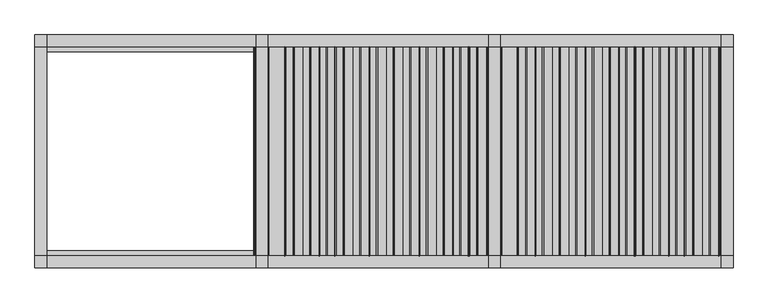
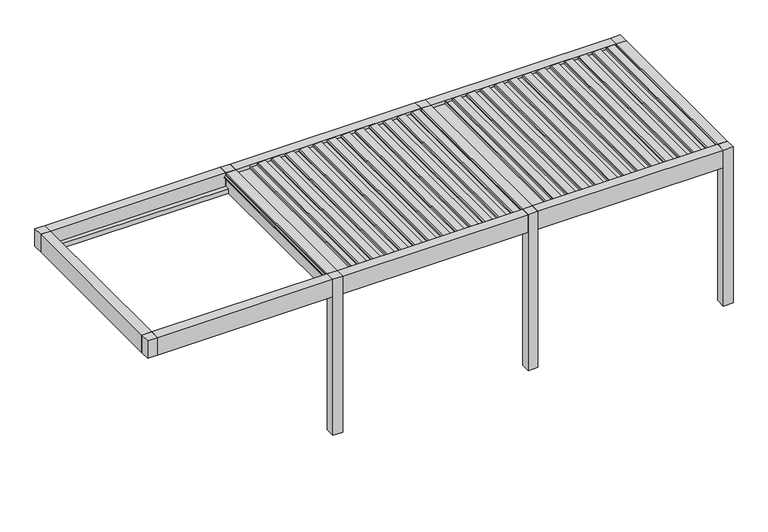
"""IFC4 building model written with IfcOpenShell, lengths in millimetres: proxy geometry, Renson_Amani_Patio_Cover : Renson_Amani_Patio_Cover."""

from ifc_helpers import new_model, si_unit, point, frame, frame_2d, origin, origin_with_axes, place, context, project, spatial, polyline, circle_curve, trimmed, segment, composite_curve, outline, extrude, source, transform, mapped, element, save


def generic_models_989edc24(model_context):
    return source(origin(), model_context, "Body", "SweptSolid", [
        extrude(outline(composite_curve([segment(polyline([(2483.35, 7073.7289238), (2511.01198, 7076.1490335), (2512.3970364, 7104.984284), (2531.8911096, 7101.5469529), (2526.6075693, 6991.549838)]), True, "CONTINUOUS"), segment(trimmed(circle_curve(frame_2d((2511.6248435, 6992.26951)), 15.0), [point((2526.6075693, 6991.549838))], [point((2514.2295662, 6977.4973937))], False, "CARTESIAN"), True, "CONTINUOUS"), segment(polyline([(2514.2295662, 6977.4973937), (2495.0, 6974.1067023), (2495.0, 6886.3709263), (2512.0788237, 6883.3594689), (2511.3450182, 6868.0824984), (2483.35, 6865.6332517), (2483.35, 7073.7289238)]), True, "CONTINUOUS")], self_intersect=False)), frame((0.0, -1350.0, 0.0), z_axis=(0.0, 1.0, 0.0), x_axis=(0.0, 0.0, 1.0)), (0.0, 0.0, 1.0), 2700.0),
        extrude(outline(composite_curve([segment(polyline([(2483.35, 6858.7132078), (2511.01198, 6861.1333174), (2512.3970364, 6889.9685679), (2531.8911096, 6886.5312368), (2526.6075693, 6776.534122)]), True, "CONTINUOUS"), segment(trimmed(circle_curve(frame_2d((2511.6248435, 6777.2537939)), 15.0), [point((2526.6075693, 6776.534122))], [point((2514.2295662, 6762.4816776))], False, "CARTESIAN"), True, "CONTINUOUS"), segment(polyline([(2514.2295662, 6762.4816776), (2495.0, 6759.0909863), (2495.0, 6671.3552102), (2512.0788237, 6668.3437528), (2511.3450182, 6653.0667824), (2483.35, 6650.6175356), (2483.35, 6858.7132078)]), True, "CONTINUOUS")], self_intersect=False)), frame((0.0, -1350.0, 0.0), z_axis=(0.0, 1.0, 0.0), x_axis=(0.0, 0.0, 1.0)), (0.0, 0.0, 1.0), 2700.0),
        extrude(outline(composite_curve([segment(polyline([(2483.35, 6643.6974917), (2511.01198, 6646.1176014), (2512.3970364, 6674.9528519), (2531.8911096, 6671.5155208), (2526.6075693, 6561.5184059)]), True, "CONTINUOUS"), segment(trimmed(circle_curve(frame_2d((2511.6248435, 6562.2380779)), 15.0), [point((2526.6075693, 6561.5184059))], [point((2514.2295662, 6547.4659616))], False, "CARTESIAN"), True, "CONTINUOUS"), segment(polyline([(2514.2295662, 6547.4659616), (2495.0, 6544.0752702), (2495.0, 6456.3394942), (2512.0788237, 6453.3280368), (2511.3450182, 6438.0510663), (2483.35, 6435.6018196), (2483.35, 6643.6974917)]), True, "CONTINUOUS")], self_intersect=False)), frame((0.0, -1350.0, 0.0), z_axis=(0.0, 1.0, 0.0), x_axis=(0.0, 0.0, 1.0)), (0.0, 0.0, 1.0), 2700.0),
        extrude(outline(composite_curve([segment(polyline([(2483.35, 6428.6817757), (2511.01198, 6431.1018854), (2512.3970364, 6459.9371358), (2531.8911096, 6456.4998047), (2526.6075693, 6346.5026899)]), True, "CONTINUOUS"), segment(trimmed(circle_curve(frame_2d((2511.6248435, 6347.2223618)), 15.0), [point((2526.6075693, 6346.5026899))], [point((2514.2295662, 6332.4502455))], False, "CARTESIAN"), True, "CONTINUOUS"), segment(polyline([(2514.2295662, 6332.4502455), (2495.0, 6329.0595542), (2495.0, 6241.3237782), (2512.0788237, 6238.3123207), (2511.3450182, 6223.0353503), (2483.35, 6220.5861035), (2483.35, 6428.6817757)]), True, "CONTINUOUS")], self_intersect=False)), frame((0.0, -1350.0, 0.0), z_axis=(0.0, 1.0, 0.0), x_axis=(0.0, 0.0, 1.0)), (0.0, 0.0, 1.0), 2700.0),
        extrude(outline(composite_curve([segment(polyline([(2483.35, 6213.6660597), (2511.01198, 6216.0861693), (2512.3970364, 6244.9214198), (2531.8911096, 6241.4840887), (2526.6075693, 6131.4869738)]), True, "CONTINUOUS"), segment(trimmed(circle_curve(frame_2d((2511.6248435, 6132.2066458)), 15.0), [point((2526.6075693, 6131.4869738))], [point((2514.2295662, 6117.4345295))], False, "CARTESIAN"), True, "CONTINUOUS"), segment(polyline([(2514.2295662, 6117.4345295), (2495.0, 6114.0438381), (2495.0, 6026.3080621), (2512.0788237, 6023.2966047), (2511.3450182, 6008.0196342), (2483.35, 6005.5703875), (2483.35, 6213.6660597)]), True, "CONTINUOUS")], self_intersect=False)), frame((0.0, -1350.0, 0.0), z_axis=(0.0, 1.0, 0.0), x_axis=(0.0, 0.0, 1.0)), (0.0, 0.0, 1.0), 2700.0),
        extrude(outline(composite_curve([segment(polyline([(2483.35, 5998.6503436), (2511.01198, 6001.0704533), (2512.3970364, 6029.9057037), (2531.8911096, 6026.4683726), (2526.6075693, 5916.4712578)]), True, "CONTINUOUS"), segment(trimmed(circle_curve(frame_2d((2511.6248435, 5917.1909297)), 15.0), [point((2526.6075693, 5916.4712578))], [point((2514.2295662, 5902.4188134))], False, "CARTESIAN"), True, "CONTINUOUS"), segment(polyline([(2514.2295662, 5902.4188134), (2495.0, 5899.0281221), (2495.0, 5811.2923461), (2512.0788237, 5808.2808886), (2511.3450182, 5793.0039182), (2483.35, 5790.5546714), (2483.35, 5998.6503436)]), True, "CONTINUOUS")], self_intersect=False)), frame((0.0, -1350.0, 0.0), z_axis=(0.0, 1.0, 0.0), x_axis=(0.0, 0.0, 1.0)), (0.0, 0.0, 1.0), 2700.0),
        extrude(outline(composite_curve([segment(polyline([(2483.35, 5783.6346276), (2511.01198, 5786.0547372), (2512.3970364, 5814.8899877), (2531.8911096, 5811.4526566), (2526.6075693, 5701.4555418)]), True, "CONTINUOUS"), segment(trimmed(circle_curve(frame_2d((2511.6248435, 5702.1752137)), 15.0), [point((2526.6075693, 5701.4555418))], [point((2514.2295662, 5687.4030974))], False, "CARTESIAN"), True, "CONTINUOUS"), segment(polyline([(2514.2295662, 5687.4030974), (2495.0, 5684.012406), (2495.0, 5596.27663), (2512.0788237, 5593.2651726), (2511.3450182, 5577.9882021), (2483.35, 5575.5389554), (2483.35, 5783.6346276)]), True, "CONTINUOUS")], self_intersect=False)), frame((0.0, -1350.0, 0.0), z_axis=(0.0, 1.0, 0.0), x_axis=(0.0, 0.0, 1.0)), (0.0, 0.0, 1.0), 2700.0),
        extrude(outline(composite_curve([segment(polyline([(2483.35, 5568.6189115), (2511.01198, 5571.0390212), (2512.3970364, 5599.8742716), (2531.8911096, 5596.4369406), (2526.6075693, 5486.4398257)]), True, "CONTINUOUS"), segment(trimmed(circle_curve(frame_2d((2511.6248435, 5487.1594976)), 15.0), [point((2526.6075693, 5486.4398257))], [point((2514.2295662, 5472.3873813))], False, "CARTESIAN"), True, "CONTINUOUS"), segment(polyline([(2514.2295662, 5472.3873813), (2495.0, 5468.99669), (2495.0, 5381.260914), (2512.0788237, 5378.2494566), (2511.3450182, 5362.9724861), (2483.35, 5360.5232394), (2483.35, 5568.6189115)]), True, "CONTINUOUS")], self_intersect=False)), frame((0.0, -1350.0, 0.0), z_axis=(0.0, 1.0, 0.0), x_axis=(0.0, 0.0, 1.0)), (0.0, 0.0, 1.0), 2700.0),
        extrude(outline(composite_curve([segment(polyline([(2483.35, 5353.6031955), (2511.01198, 5356.0233051), (2512.3970364, 5384.8585556), (2531.8911096, 5381.4212245), (2526.6075693, 5271.4241097)]), True, "CONTINUOUS"), segment(trimmed(circle_curve(frame_2d((2511.6248435, 5272.1437816)), 15.0), [point((2526.6075693, 5271.4241097))], [point((2514.2295662, 5257.3716653))], False, "CARTESIAN"), True, "CONTINUOUS"), segment(polyline([(2514.2295662, 5257.3716653), (2495.0, 5253.980974), (2495.0, 5166.2451979), (2512.0788237, 5163.2337405), (2511.3450182, 5147.95677), (2483.35, 5145.5075233), (2483.35, 5353.6031955)]), True, "CONTINUOUS")], self_intersect=False)), frame((0.0, -1350.0, 0.0), z_axis=(0.0, 1.0, 0.0), x_axis=(0.0, 0.0, 1.0)), (0.0, 0.0, 1.0), 2700.0),
        extrude(outline(composite_curve([segment(polyline([(2483.35, 5138.5874794), (2511.01198, 5141.0075891), (2512.3970364, 5169.8428395), (2531.8911096, 5166.4055085), (2526.6075693, 5056.4083936)]), True, "CONTINUOUS"), segment(trimmed(circle_curve(frame_2d((2511.6248435, 5057.1280655)), 15.0), [point((2526.6075693, 5056.4083936))], [point((2514.2295662, 5042.3559492))], False, "CARTESIAN"), True, "CONTINUOUS"), segment(polyline([(2514.2295662, 5042.3559492), (2495.0, 5038.9652579), (2495.0, 4951.2294819), (2512.0788237, 4948.2180245), (2511.3450182, 4932.941054), (2483.35, 4930.4918073), (2483.35, 5138.5874794)]), True, "CONTINUOUS")], self_intersect=False)), frame((0.0, -1350.0, 0.0), z_axis=(0.0, 1.0, 0.0), x_axis=(0.0, 0.0, 1.0)), (0.0, 0.0, 1.0), 2700.0),
        extrude(outline(composite_curve([segment(polyline([(2483.35, 7288.7446399), (2511.01198, 7291.1647495), (2512.3970364, 7320.0), (2531.8911096, 7316.5626689), (2526.6075693, 7206.5655541)]), True, "CONTINUOUS"), segment(trimmed(circle_curve(frame_2d((2511.6248435, 7207.285226)), 15.0), [point((2526.6075693, 7206.5655541))], [point((2514.2295662, 7192.5131097))], False, "CARTESIAN"), True, "CONTINUOUS"), segment(polyline([(2514.2295662, 7192.5131097), (2495.0, 7189.1224184), (2495.0, 7101.3866423), (2512.0788237, 7098.3751849), (2511.3450182, 7083.0982144), (2483.35, 7080.6489677), (2483.35, 7288.7446399)]), True, "CONTINUOUS")], self_intersect=False)), frame((0.0, -1350.0, 0.0), z_axis=(0.0, 1.0, 0.0), x_axis=(0.0, 0.0, 1.0)), (0.0, 0.0, 1.0), 2700.0),
        extrude(outline(composite_curve([segment(polyline([(2483.35, 4923.5717634), (2511.01198, 4925.991873), (2512.3970364, 4954.8271235), (2531.8911096, 4951.3897924), (2526.6075693, 4841.3926776)]), True, "CONTINUOUS"), segment(trimmed(circle_curve(frame_2d((2511.6248435, 4842.1123495)), 15.0), [point((2526.6075693, 4841.3926776))], [point((2514.2295662, 4827.3402332))], False, "CARTESIAN"), True, "CONTINUOUS"), segment(polyline([(2514.2295662, 4827.3402332), (2495.0, 4823.9495419), (2495.0, 4736.2137658), (2512.0788237, 4733.2023084), (2511.3450182, 4717.9253379), (2483.35, 4715.4760912), (2483.35, 4923.5717634)]), True, "CONTINUOUS")], self_intersect=False)), frame((0.0, -1350.0, 0.0), z_axis=(0.0, 1.0, 0.0), x_axis=(0.0, 0.0, 1.0)), (0.0, 0.0, 1.0), 2700.0),
        extrude(outline(composite_curve([segment(polyline([(2483.35, 4073.7289238), (2511.01198, 4076.1490335), (2512.3970364, 4104.984284), (2531.8911096, 4101.5469529), (2526.6075693, 3991.549838)]), True, "CONTINUOUS"), segment(trimmed(circle_curve(frame_2d((2511.6248435, 3992.26951)), 15.0), [point((2526.6075693, 3991.549838))], [point((2514.2295662, 3977.4973937))], False, "CARTESIAN"), True, "CONTINUOUS"), segment(polyline([(2514.2295662, 3977.4973937), (2495.0, 3974.1067023), (2495.0, 3886.3709263), (2512.0788237, 3883.3594689), (2511.3450182, 3868.0824984), (2483.35, 3865.6332517), (2483.35, 4073.7289238)]), True, "CONTINUOUS")], self_intersect=False)), frame((0.0, -1350.0, 0.0), z_axis=(0.0, 1.0, 0.0), x_axis=(0.0, 0.0, 1.0)), (0.0, 0.0, 1.0), 2700.0),
        extrude(outline(composite_curve([segment(polyline([(2483.35, 3858.7132078), (2511.01198, 3861.1333174), (2512.3970364, 3889.9685679), (2531.8911096, 3886.5312368), (2526.6075693, 3776.534122)]), True, "CONTINUOUS"), segment(trimmed(circle_curve(frame_2d((2511.6248435, 3777.2537939)), 15.0), [point((2526.6075693, 3776.534122))], [point((2514.2295662, 3762.4816776))], False, "CARTESIAN"), True, "CONTINUOUS"), segment(polyline([(2514.2295662, 3762.4816776), (2495.0, 3759.0909863), (2495.0, 3671.3552102), (2512.0788237, 3668.3437528), (2511.3450182, 3653.0667824), (2483.35, 3650.6175356), (2483.35, 3858.7132078)]), True, "CONTINUOUS")], self_intersect=False)), frame((0.0, -1350.0, 0.0), z_axis=(0.0, 1.0, 0.0), x_axis=(0.0, 0.0, 1.0)), (0.0, 0.0, 1.0), 2700.0),
        extrude(outline(composite_curve([segment(polyline([(2483.35, 3643.6974917), (2511.01198, 3646.1176014), (2512.3970364, 3674.9528519), (2531.8911096, 3671.5155208), (2526.6075693, 3561.5184059)]), True, "CONTINUOUS"), segment(trimmed(circle_curve(frame_2d((2511.6248435, 3562.2380779)), 15.0), [point((2526.6075693, 3561.5184059))], [point((2514.2295662, 3547.4659616))], False, "CARTESIAN"), True, "CONTINUOUS"), segment(polyline([(2514.2295662, 3547.4659616), (2495.0, 3544.0752702), (2495.0, 3456.3394942), (2512.0788237, 3453.3280368), (2511.3450182, 3438.0510663), (2483.35, 3435.6018196), (2483.35, 3643.6974917)]), True, "CONTINUOUS")], self_intersect=False)), frame((0.0, -1350.0, 0.0), z_axis=(0.0, 1.0, 0.0), x_axis=(0.0, 0.0, 1.0)), (0.0, 0.0, 1.0), 2700.0),
        extrude(outline(composite_curve([segment(polyline([(2483.35, 3428.6817757), (2511.01198, 3431.1018854), (2512.3970364, 3459.9371358), (2531.8911096, 3456.4998047), (2526.6075693, 3346.5026899)]), True, "CONTINUOUS"), segment(trimmed(circle_curve(frame_2d((2511.6248435, 3347.2223618)), 15.0), [point((2526.6075693, 3346.5026899))], [point((2514.2295662, 3332.4502455))], False, "CARTESIAN"), True, "CONTINUOUS"), segment(polyline([(2514.2295662, 3332.4502455), (2495.0, 3329.0595542), (2495.0, 3241.3237782), (2512.0788237, 3238.3123207), (2511.3450182, 3223.0353503), (2483.35, 3220.5861035), (2483.35, 3428.6817757)]), True, "CONTINUOUS")], self_intersect=False)), frame((0.0, -1350.0, 0.0), z_axis=(0.0, 1.0, 0.0), x_axis=(0.0, 0.0, 1.0)), (0.0, 0.0, 1.0), 2700.0),
        extrude(outline(composite_curve([segment(polyline([(2483.35, 3213.6660597), (2511.01198, 3216.0861693), (2512.3970364, 3244.9214198), (2531.8911096, 3241.4840887), (2526.6075693, 3131.4869738)]), True, "CONTINUOUS"), segment(trimmed(circle_curve(frame_2d((2511.6248435, 3132.2066458)), 15.0), [point((2526.6075693, 3131.4869738))], [point((2514.2295662, 3117.4345295))], False, "CARTESIAN"), True, "CONTINUOUS"), segment(polyline([(2514.2295662, 3117.4345295), (2495.0, 3114.0438381), (2495.0, 3026.3080621), (2512.0788237, 3023.2966047), (2511.3450182, 3008.0196342), (2483.35, 3005.5703875), (2483.35, 3213.6660597)]), True, "CONTINUOUS")], self_intersect=False)), frame((0.0, -1350.0, 0.0), z_axis=(0.0, 1.0, 0.0), x_axis=(0.0, 0.0, 1.0)), (0.0, 0.0, 1.0), 2700.0),
        extrude(outline(composite_curve([segment(polyline([(2483.35, 2998.6503436), (2511.01198, 3001.0704533), (2512.3970364, 3029.9057037), (2531.8911096, 3026.4683726), (2526.6075693, 2916.4712578)]), True, "CONTINUOUS"), segment(trimmed(circle_curve(frame_2d((2511.6248435, 2917.1909297)), 15.0), [point((2526.6075693, 2916.4712578))], [point((2514.2295662, 2902.4188134))], False, "CARTESIAN"), True, "CONTINUOUS"), segment(polyline([(2514.2295662, 2902.4188134), (2495.0, 2899.0281221), (2495.0, 2811.2923461), (2512.0788237, 2808.2808886), (2511.3450182, 2793.0039182), (2483.35, 2790.5546714), (2483.35, 2998.6503436)]), True, "CONTINUOUS")], self_intersect=False)), frame((0.0, -1350.0, 0.0), z_axis=(0.0, 1.0, 0.0), x_axis=(0.0, 0.0, 1.0)), (0.0, 0.0, 1.0), 2700.0),
        extrude(outline(composite_curve([segment(polyline([(2483.35, 2783.6346276), (2511.01198, 2786.0547372), (2512.3970364, 2814.8899877), (2531.8911096, 2811.4526566), (2526.6075693, 2701.4555418)]), True, "CONTINUOUS"), segment(trimmed(circle_curve(frame_2d((2511.6248435, 2702.1752137)), 15.0), [point((2526.6075693, 2701.4555418))], [point((2514.2295662, 2687.4030974))], False, "CARTESIAN"), True, "CONTINUOUS"), segment(polyline([(2514.2295662, 2687.4030974), (2495.0, 2684.012406), (2495.0, 2596.27663), (2512.0788237, 2593.2651726), (2511.3450182, 2577.9882021), (2483.35, 2575.5389554), (2483.35, 2783.6346276)]), True, "CONTINUOUS")], self_intersect=False)), frame((0.0, -1350.0, 0.0), z_axis=(0.0, 1.0, 0.0), x_axis=(0.0, 0.0, 1.0)), (0.0, 0.0, 1.0), 2700.0),
        extrude(outline(composite_curve([segment(polyline([(2483.35, 2568.6189115), (2511.01198, 2571.0390212), (2512.3970364, 2599.8742716), (2531.8911096, 2596.4369406), (2526.6075693, 2486.4398257)]), True, "CONTINUOUS"), segment(trimmed(circle_curve(frame_2d((2511.6248435, 2487.1594976)), 15.0), [point((2526.6075693, 2486.4398257))], [point((2514.2295662, 2472.3873813))], False, "CARTESIAN"), True, "CONTINUOUS"), segment(polyline([(2514.2295662, 2472.3873813), (2495.0, 2468.99669), (2495.0, 2381.260914), (2512.0788237, 2378.2494566), (2511.3450182, 2362.9724861), (2483.35, 2360.5232394), (2483.35, 2568.6189115)]), True, "CONTINUOUS")], self_intersect=False)), frame((0.0, -1350.0, 0.0), z_axis=(0.0, 1.0, 0.0), x_axis=(0.0, 0.0, 1.0)), (0.0, 0.0, 1.0), 2700.0),
        extrude(outline(composite_curve([segment(polyline([(2483.35, 2353.6031955), (2511.01198, 2356.0233051), (2512.3970364, 2384.8585556), (2531.8911096, 2381.4212245), (2526.6075693, 2271.4241097)]), True, "CONTINUOUS"), segment(trimmed(circle_curve(frame_2d((2511.6248435, 2272.1437816)), 15.0), [point((2526.6075693, 2271.4241097))], [point((2514.2295662, 2257.3716653))], False, "CARTESIAN"), True, "CONTINUOUS"), segment(polyline([(2514.2295662, 2257.3716653), (2495.0, 2253.980974), (2495.0, 2166.2451979), (2512.0788237, 2163.2337405), (2511.3450182, 2147.95677), (2483.35, 2145.5075233), (2483.35, 2353.6031955)]), True, "CONTINUOUS")], self_intersect=False)), frame((0.0, -1350.0, 0.0), z_axis=(0.0, 1.0, 0.0), x_axis=(0.0, 0.0, 1.0)), (0.0, 0.0, 1.0), 2700.0),
        extrude(outline(composite_curve([segment(polyline([(2483.35, 2138.5874794), (2511.01198, 2141.0075891), (2512.3970364, 2169.8428395), (2531.8911096, 2166.4055085), (2526.6075693, 2056.4083936)]), True, "CONTINUOUS"), segment(trimmed(circle_curve(frame_2d((2511.6248435, 2057.1280655)), 15.0), [point((2526.6075693, 2056.4083936))], [point((2514.2295662, 2042.3559492))], False, "CARTESIAN"), True, "CONTINUOUS"), segment(polyline([(2514.2295662, 2042.3559492), (2495.0, 2038.9652579), (2495.0, 1951.2294819), (2512.0788237, 1948.2180245), (2511.3450182, 1932.941054), (2483.35, 1930.4918073), (2483.35, 2138.5874794)]), True, "CONTINUOUS")], self_intersect=False)), frame((0.0, -1350.0, 0.0), z_axis=(0.0, 1.0, 0.0), x_axis=(0.0, 0.0, 1.0)), (0.0, 0.0, 1.0), 2700.0),
        extrude(outline(composite_curve([segment(polyline([(2483.35, 4288.7446399), (2511.01198, 4291.1647495), (2512.3970364, 4320.0), (2531.8911096, 4316.5626689), (2526.6075693, 4206.5655541)]), True, "CONTINUOUS"), segment(trimmed(circle_curve(frame_2d((2511.6248435, 4207.285226)), 15.0), [point((2526.6075693, 4206.5655541))], [point((2514.2295662, 4192.5131097))], False, "CARTESIAN"), True, "CONTINUOUS"), segment(polyline([(2514.2295662, 4192.5131097), (2495.0, 4189.1224184), (2495.0, 4101.3866423), (2512.0788237, 4098.3751849), (2511.3450182, 4083.0982144), (2483.35, 4080.6489677), (2483.35, 4288.7446399)]), True, "CONTINUOUS")], self_intersect=False)), frame((0.0, -1350.0, 0.0), z_axis=(0.0, 1.0, 0.0), x_axis=(0.0, 0.0, 1.0)), (0.0, 0.0, 1.0), 2700.0),
        extrude(outline(composite_curve([segment(polyline([(2483.35, 1923.5717634), (2511.01198, 1925.991873), (2512.3970364, 1954.8271235), (2531.8911096, 1951.3897924), (2526.6075693, 1841.3926776)]), True, "CONTINUOUS"), segment(trimmed(circle_curve(frame_2d((2511.6248435, 1842.1123495)), 15.0), [point((2526.6075693, 1841.3926776))], [point((2514.2295662, 1827.3402332))], False, "CARTESIAN"), True, "CONTINUOUS"), segment(polyline([(2514.2295662, 1827.3402332), (2495.0, 1823.9495419), (2495.0, 1736.2137658), (2512.0788237, 1733.2023084), (2511.3450182, 1717.9253379), (2483.35, 1715.4760912), (2483.35, 1923.5717634)]), True, "CONTINUOUS")], self_intersect=False)), frame((0.0, -1350.0, 0.0), z_axis=(0.0, 1.0, 0.0), x_axis=(0.0, 0.0, 1.0)), (0.0, 0.0, 1.0), 2700.0),
        extrude(outline(polyline([(7500.0, -1350.0), (7500.0, -1500.0), (7350.0, -1500.0), (7350.0, -1350.0), (7500.0, -1350.0)])), origin_with_axes(), (0.0, 0.0, 1.0), 2535.0),
        extrude(outline(polyline([(7500.0, 1500.0), (7500.0, 1350.0), (7350.0, 1350.0), (7350.0, 1500.0), (7500.0, 1500.0)])), frame((0.0, 0.0, 2250.0), z_axis=(0.0, 0.0, 1.0), x_axis=(1.0, 0.0, 0.0)), (0.0, 0.0, 1.0), 285.0),
        extrude(outline(polyline([(4500.0, 1350.0), (4350.0, 1350.0), (4350.0, 1500.0), (4500.0, 1500.0), (4500.0, 1350.0)])), frame((0.0, 0.0, 2250.0), z_axis=(0.0, 0.0, 1.0), x_axis=(1.0, 0.0, 0.0)), (0.0, 0.0, 1.0), 285.0),
        extrude(outline(polyline([(1500.0, 1500.0), (1500.0, 1350.0), (1350.0, 1350.0), (1350.0, 1500.0), (1500.0, 1500.0)])), frame((0.0, 0.0, 2250.0), z_axis=(0.0, 0.0, 1.0), x_axis=(1.0, 0.0, 0.0)), (0.0, 0.0, 1.0), 285.0),
        extrude(outline(polyline([(-1350.0, 1500.0), (-1350.0, 1350.0), (-1500.0, 1350.0), (-1500.0, 1500.0), (-1350.0, 1500.0)])), frame((0.0, 0.0, 2250.0), z_axis=(0.0, 0.0, 1.0), x_axis=(1.0, 0.0, 0.0)), (0.0, 0.0, 1.0), 285.0),
        extrude(outline(polyline([(-1350.0, -1500.0), (-1500.0, -1500.0), (-1500.0, -1350.0), (-1350.0, -1350.0), (-1350.0, -1500.0)])), frame((0.0, 0.0, 2250.0), z_axis=(0.0, 0.0, 1.0), x_axis=(1.0, 0.0, 0.0)), (0.0, 0.0, 1.0), 285.0),
        extrude(outline(polyline([(4500.0, -1350.0), (4500.0, -1500.0), (4350.0, -1500.0), (4350.0, -1350.0), (4500.0, -1350.0)])), origin_with_axes(), (0.0, 0.0, 1.0), 2535.0),
        extrude(outline(polyline([(1500.0, -1350.0), (1500.0, -1500.0), (1350.0, -1500.0), (1350.0, -1350.0), (1500.0, -1350.0)])), origin_with_axes(), (0.0, 0.0, 1.0), 2535.0),
        extrude(outline(polyline([(2466.6559373, 4500.0), (2466.6559373, 4710.0), (2480.6555802, 4713.7512887), (2480.6555802, 4520.4059055), (2496.400763, 4505.0), (2504.2449277, 4505.0), (2504.6823598, 4500.0), (2466.6559373, 4500.0)])), frame((0.0, -1350.0, 0.0), z_axis=(0.0, 1.0, 0.0), x_axis=(0.0, 0.0, 1.0)), (0.0, 0.0, 1.0), 2700.0),
        extrude(outline(polyline([(-1350.0, 2535.0), (-1350.0, 2322.0), (-1280.0000001, 2322.0), (-1280.0000001, 2250.0), (-1500.0, 2250.0), (-1500.0, 2535.0), (-1350.0, 2535.0)])), frame((4500.0, 0.0, 0.0), z_axis=(1.0, 0.0, 0.0), x_axis=(0.0, 1.0, 0.0)), (0.0, 0.0, 1.0), 2850.0),
        extrude(outline(polyline([(1500.0, 2250.0), (1280.0000001, 2250.0), (1280.0000001, 2322.0), (1350.0, 2322.0), (1350.0, 2535.0), (1500.0, 2535.0), (1500.0, 2250.0)])), frame((4500.0, 0.0, 0.0), z_axis=(1.0, 0.0, 0.0), x_axis=(0.0, 1.0, 0.0)), (0.0, 0.0, 1.0), 2850.0),
        extrude(outline(polyline([(2535.0, 7500.0), (2535.0, 7350.0), (2504.6823598, 7350.0), (2504.2449277, 7345.0), (2496.400763, 7345.0), (2480.6555802, 7329.2544156), (2480.6555802, 7319.9090324), (2466.6559373, 7323.6603211), (2466.6559373, 7350.0), (2250.0, 7350.0), (2250.0, 7500.0), (2535.0, 7500.0)])), frame((0.0, -1350.0, 0.0), z_axis=(0.0, 1.0, 0.0), x_axis=(0.0, 0.0, 1.0)), (0.0, 0.0, 1.0), 2700.0),
        extrude(outline(polyline([(2466.6559373, 1500.0), (2466.6559373, 1710.0), (2480.6555802, 1713.7512887), (2480.6555802, 1520.4059055), (2496.400763, 1505.0), (2504.2449277, 1505.0), (2504.6823598, 1500.0), (2466.6559373, 1500.0)])), frame((0.0, -1350.0, 0.0), z_axis=(0.0, 1.0, 0.0), x_axis=(0.0, 0.0, 1.0)), (0.0, 0.0, 1.0), 2700.0),
        extrude(outline(polyline([(-1350.0, 2535.0), (-1350.0, 2322.0), (-1280.0000001, 2322.0), (-1280.0000001, 2250.0), (-1500.0, 2250.0), (-1500.0, 2535.0), (-1350.0, 2535.0)])), frame((1500.0, 0.0, 0.0), z_axis=(1.0, 0.0, 0.0), x_axis=(0.0, 1.0, 0.0)), (0.0, 0.0, 1.0), 2850.0),
        extrude(outline(polyline([(1500.0, 2250.0), (1280.0000001, 2250.0), (1280.0000001, 2322.0), (1350.0, 2322.0), (1350.0, 2535.0), (1500.0, 2535.0), (1500.0, 2250.0)])), frame((1500.0, 0.0, 0.0), z_axis=(1.0, 0.0, 0.0), x_axis=(0.0, 1.0, 0.0)), (0.0, 0.0, 1.0), 2850.0),
        extrude(outline(polyline([(2535.0, 4500.0), (2535.0, 4350.0), (2504.6823598, 4350.0), (2504.2449277, 4345.0), (2496.400763, 4345.0), (2480.6555802, 4329.2544156), (2480.6555802, 4319.9090324), (2466.6559373, 4323.6603211), (2466.6559373, 4350.0), (2250.0, 4350.0), (2250.0, 4500.0), (2535.0, 4500.0)])), frame((0.0, -1350.0, 0.0), z_axis=(0.0, 1.0, 0.0), x_axis=(0.0, 0.0, 1.0)), (0.0, 0.0, 1.0), 2700.0),
        extrude(outline(polyline([(-1350.0, -1350.0), (-1500.0, -1350.0), (-1500.0, 1350.0), (-1350.0, 1350.0), (-1350.0, -1350.0)])), frame((0.0, 0.0, 2250.0), z_axis=(0.0, 0.0, 1.0), x_axis=(1.0, 0.0, 0.0)), (0.0, 0.0, 1.0), 285.0),
        extrude(outline(polyline([(2535.0, 1500.0), (2535.0, 1350.0), (2504.6904658, 1350.0), (2504.2449277, 1345.0), (2496.400763, 1345.0), (2480.6555802, 1329.2544156), (2480.6555802, 1319.9090324), (2466.6559373, 1323.6603211), (2466.6559373, 1350.0), (2250.0, 1350.0), (2250.0, 1500.0), (2535.0, 1500.0)])), frame((0.0, -1350.0, 0.0), z_axis=(0.0, 1.0, 0.0), x_axis=(0.0, 0.0, 1.0)), (0.0, 0.0, 1.0), 2700.0),
        extrude(outline(polyline([(-1350.0, 2535.0), (-1350.0, 2322.0), (-1280.0000001, 2322.0), (-1280.0000001, 2250.0), (-1500.0, 2250.0), (-1500.0, 2535.0), (-1350.0, 2535.0)])), frame((-1350.0, 0.0, 0.0), z_axis=(1.0, 0.0, 0.0), x_axis=(0.0, 1.0, 0.0)), (0.0, 0.0, 1.0), 2700.0),
        extrude(outline(polyline([(1500.0, 2250.0), (1280.0000001, 2250.0), (1280.0000001, 2322.0), (1350.0, 2322.0), (1350.0, 2535.0), (1500.0, 2535.0), (1500.0, 2250.0)])), frame((-1350.0, 0.0, 0.0), z_axis=(1.0, 0.0, 0.0), x_axis=(0.0, 1.0, 0.0)), (0.0, 0.0, 1.0), 2700.0),
    ])


if __name__ == "__main__":
    model = new_model("IFC4")
    model_context = context("Model", 3, world=origin())
    ifc_project = project(units=[si_unit("LENGTHUNIT", "METRE", prefix="MILLI")], contexts=[model_context])
    site = spatial("IfcSite", under=ifc_project)
    building = spatial("IfcBuilding", under=site)
    placement = place(None, origin())
    generic_models_shape = generic_models_989edc24(model_context)
    element("IfcBuildingElementProxy", 1, Name="Renson_Amani_Patio_Cover : Renson_Amani_Patio_Cover", ObjectType="Renson_Amani_Patio_Cover : Renson_Amani_Patio_Cover", at=placement, inside=building, context=model_context, shape_type="MappedRepresentation", body=[
        mapped(generic_models_shape, transform((0.0, 0.0, 0.0), x_axis=(1.0, 0.0, 0.0), y_axis=(0.0, 1.0, 0.0), z_axis=(0.0, 0.0, 1.0))),
    ])
    save(model, "model.ifc")
